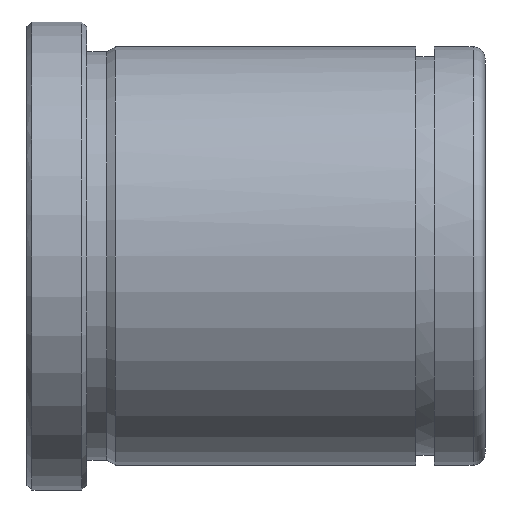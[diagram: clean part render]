
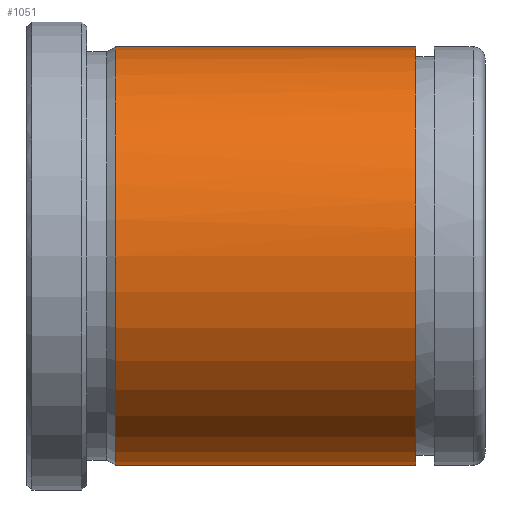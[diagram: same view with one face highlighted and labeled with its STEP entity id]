
A CAD part, front view. The second image highlights one B-rep face of the part: STEP entity #1051.
In plain terms, the highlighted cylindrical face has radius 21 mm (diameter 42 mm), a partial arc.
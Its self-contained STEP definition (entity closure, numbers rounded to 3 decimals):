
#851=CARTESIAN_POINT('Vertex',(8.866,0.,-21.)) ;
#858=CARTESIAN_POINT('Vertex',(8.866,0.,21.)) ;
#887=CARTESIAN_POINT('Axis2P3D Location',(8.866,0.,0.)) ;
#891=CARTESIAN_POINT('Vertex',(8.866,-21.,0.)) ;
#894=CARTESIAN_POINT('Axis2P3D Location',(8.866,0.,0.)) ;
#985=CARTESIAN_POINT('Line Origine',(92.,0.,21.)) ;
#989=CARTESIAN_POINT('Vertex',(39.05,0.,21.)) ;
#1006=CARTESIAN_POINT('Vertex',(39.05,0.,-21.)) ;
#1009=CARTESIAN_POINT('Line Origine',(92.,0.,-21.)) ;
#1023=CARTESIAN_POINT('Axis2P3D Location',(92.,0.,0.)) ;
#1028=CARTESIAN_POINT('Axis2P3D Location',(39.05,0.,0.)) ;
#1032=CARTESIAN_POINT('Vertex',(39.05,-21.,0.)) ;
#1036=CARTESIAN_POINT('Control Point',(39.05,0.,21.)) ;
#1037=CARTESIAN_POINT('Control Point',(39.05,-6.597,21.)) ;
#1038=CARTESIAN_POINT('Control Point',(39.05,-13.201,18.417)) ;
#1039=CARTESIAN_POINT('Control Point',(39.05,-18.417,13.201)) ;
#1040=CARTESIAN_POINT('Control Point',(39.05,-21.,6.597)) ;
#1041=CARTESIAN_POINT('Control Point',(39.05,-21.,0.)) ;
#888=DIRECTION('Axis2P3D Direction',(1.,0.,-0.)) ;
#895=DIRECTION('Axis2P3D Direction',(1.,0.,-0.)) ;
#986=DIRECTION('Vector Direction',(-1.,0.,0.)) ;
#1010=DIRECTION('Vector Direction',(-1.,0.,0.)) ;
#1024=DIRECTION('Axis2P3D Direction',(-1.,-0.,-0.)) ;
#1025=DIRECTION('Axis2P3D XDirection',(0.,0.,-1.)) ;
#1029=DIRECTION('Axis2P3D Direction',(-1.,-0.,-0.)) ;
#889=AXIS2_PLACEMENT_3D('Circle Axis2P3D',#887,#888,$) ;
#896=AXIS2_PLACEMENT_3D('Circle Axis2P3D',#894,#895,$) ;
#1026=AXIS2_PLACEMENT_3D('Cylinder Axis2P3D',#1023,#1024,#1025) ;
#1030=AXIS2_PLACEMENT_3D('Circle Axis2P3D',#1028,#1029,$) ;
#1044=ORIENTED_EDGE('',*,*,#1013,.T.) ;
#1045=ORIENTED_EDGE('',*,*,#1034,.F.) ;
#1046=ORIENTED_EDGE('',*,*,#1042,.F.) ;
#1047=ORIENTED_EDGE('',*,*,#991,.T.) ;
#1048=ORIENTED_EDGE('',*,*,#898,.T.) ;
#1049=ORIENTED_EDGE('',*,*,#893,.T.) ;
#987=VECTOR('Line Direction',#986,1.) ;
#1011=VECTOR('Line Direction',#1010,1.) ;
#1051=ADVANCED_FACE('553-32X46',(#1050),#1027,.T.) ;
#1035=B_SPLINE_CURVE_WITH_KNOTS('',5,(#1036,#1037,#1038,#1039,#1040,#1041),.UNSPECIFIED.,.F.,.U.,(6,6),(-16.493,16.493),.UNSPECIFIED.) ;
#890=CIRCLE('generated circle',#889,21.) ;
#897=CIRCLE('generated circle',#896,21.) ;
#1031=CIRCLE('generated circle',#1030,21.) ;
#1027=CYLINDRICAL_SURFACE('generated cylinder',#1026,21.) ;
#893=EDGE_CURVE('',#892,#852,#890,.T.) ;
#898=EDGE_CURVE('',#859,#892,#897,.T.) ;
#991=EDGE_CURVE('',#990,#859,#988,.T.) ;
#1013=EDGE_CURVE('',#852,#1007,#1012,.F.) ;
#1034=EDGE_CURVE('',#1033,#1007,#1031,.F.) ;
#1042=EDGE_CURVE('',#990,#1033,#1035,.T.) ;
#1043=EDGE_LOOP('',(#1044,#1045,#1046,#1047,#1048,#1049)) ;
#1050=FACE_OUTER_BOUND('',#1043,.T.) ;
#988=LINE('Line',#985,#987) ;
#1012=LINE('Line',#1009,#1011) ;
#852=VERTEX_POINT('',#851) ;
#859=VERTEX_POINT('',#858) ;
#892=VERTEX_POINT('',#891) ;
#990=VERTEX_POINT('',#989) ;
#1007=VERTEX_POINT('',#1006) ;
#1033=VERTEX_POINT('',#1032) ;
